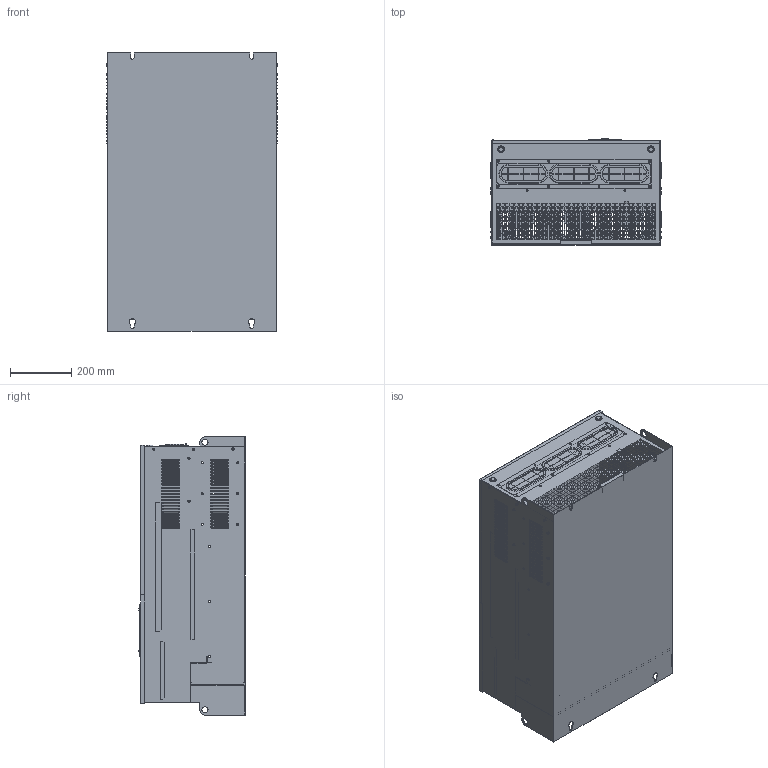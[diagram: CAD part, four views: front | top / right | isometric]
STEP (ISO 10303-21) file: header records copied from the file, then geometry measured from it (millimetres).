
FILE_DESCRIPTION((''),'2;1');
FILE_NAME('PRT0002','2015-11-11T',('Administrator'),(''),'PRO/ENGINEER BY PARAMETRIC TECHNOLOGY CORPORATION, 2012230','PRO/ENGINEER BY PARAMETRIC TECHNOLOGY CORPORATION, 2012230','');
FILE_SCHEMA(('CONFIG_CONTROL_DESIGN'));
Length unit declared in the file: millimetre
Products named in the file (1): PRT0002
Bounding box: 561.86 x 346.98 x 910 mm (x, y, z)
Surface area: 3442116.5 mm2 (no closed solid volume)
Topology: 0 solids, 172 shells, 304 faces, 4569 edges, 4435 vertices
Faces by surface type: plane 145, cylinder 109, sphere 14, torus 12, extrusion 11, bspline 7, cone 6
Entity records: 43409 total; most frequent: CARTESIAN_POINT 11547, DIRECTION 6149, ORIENTED_EDGE 4821, EDGE_CURVE 4569, VERTEX_POINT 4435, VECTOR 3055, LINE 3044, AXIS2_PLACEMENT_3D 1547
